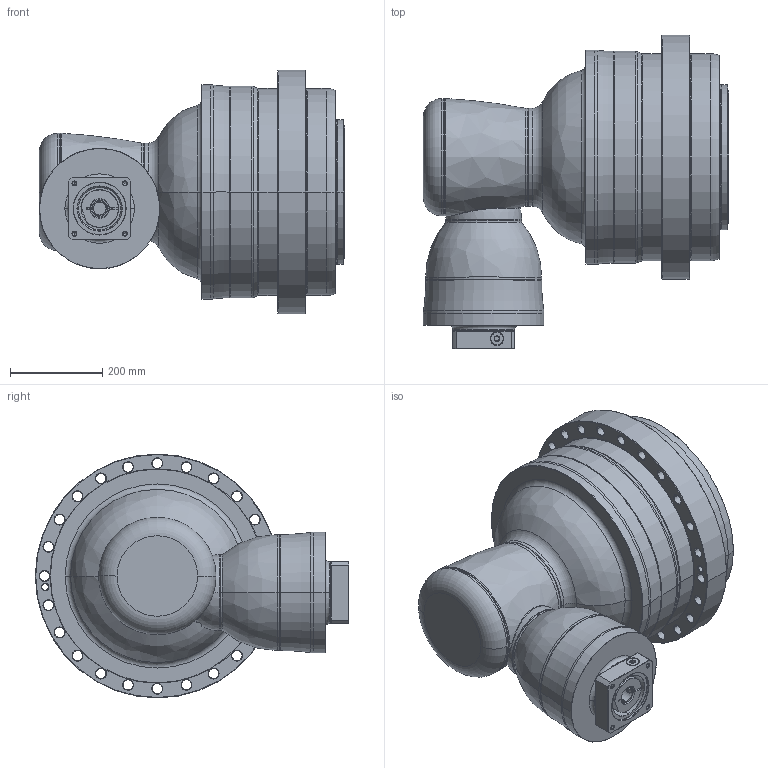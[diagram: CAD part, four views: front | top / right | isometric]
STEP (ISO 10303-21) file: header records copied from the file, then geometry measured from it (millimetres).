
FILE_DESCRIPTION((''),'2;1');
FILE_NAME('APK450_4ST_35-P0409800201_ASM','2018-10-04T',('D00080'),(''),'PRO/ENGINEER BY PARAMETRIC TECHNOLOGY CORPORATION, 2015240','PRO/ENGINEER BY PARAMETRIC TECHNOLOGY CORPORATION, 2015240','');
FILE_SCHEMA(('CONFIG_CONTROL_DESIGN'));
Length unit declared in the file: millimetre
Products named in the file (13): P1008700002; P1315700001; P1007701001; P1317701101; P1821200001; P0276201003; P0357201103; P1222200001; P0503800012; P0912601001; P0409800201; 21711422019; APK450_4ST_35-P0409800201_ASM
Assembly tree (12 placements, depth 2):
  APK450_4ST_35-P0409800201_ASM
    P1008700002
    P1315700001
    P1007701001
    P1317701101
    P1821200001
    P0276201003
    P0357201103
    P1222200001
    P0503800012
    P0912601001
    P0409800201
    21711422019
Bounding box: 663.5 x 681 x 530 mm (x, y, z)
Volume: 88783788.4 mm3; surface area: 3171831.7 mm2
Topology: 13 solids, 36 shells, 771 faces, 1739 edges, 1038 vertices
Faces by surface type: cylinder 298, cone 228, plane 123, torus 94, bspline 26, sphere 2
Entity records: 29122 total; most frequent: CARTESIAN_POINT 11188, DIRECTION 4142, ORIENTED_EDGE 3312, AXIS2_PLACEMENT_3D 1774, EDGE_CURVE 1703, VERTEX_POINT 1038, CIRCLE 992, EDGE_LOOP 919
